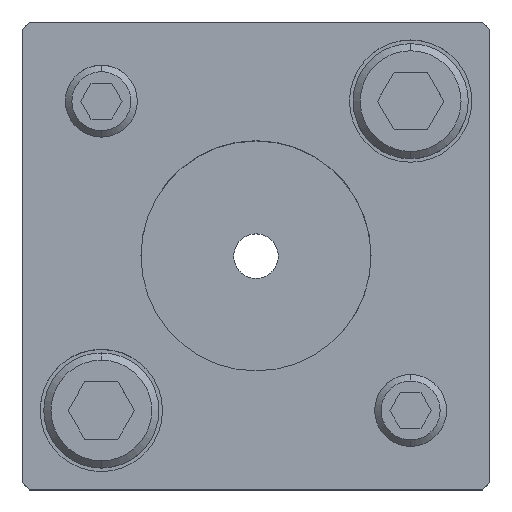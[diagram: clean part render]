
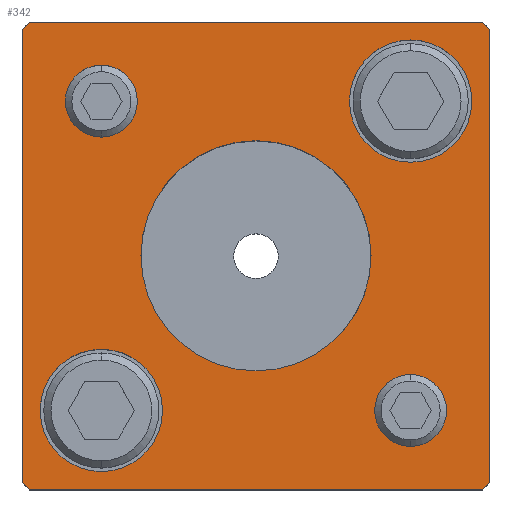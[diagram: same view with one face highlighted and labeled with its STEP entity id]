
A CAD part, top view. The second image highlights one B-rep face of the part: STEP entity #342.
In plain terms, the highlighted planar face has unit normal (0, 0, 1).
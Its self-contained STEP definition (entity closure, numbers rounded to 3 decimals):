
#167=PLANE('',#2883);
#246=FACE_BOUND('',#713,.T.);
#247=FACE_BOUND('',#714,.T.);
#248=FACE_BOUND('',#715,.T.);
#249=FACE_BOUND('',#716,.T.);
#250=FACE_BOUND('',#717,.T.);
#251=FACE_BOUND('',#718,.T.);
#342=ADVANCED_FACE('',(#246,#247,#248,#249,#250,#251),#167,.T.);
#713=EDGE_LOOP('',(#1569,#1570,#1571,#1572,#1573,#1574,#1575,#1576));
#714=EDGE_LOOP('',(#1577,#1578));
#715=EDGE_LOOP('',(#1579,#1580));
#716=EDGE_LOOP('',(#1581,#1582));
#717=EDGE_LOOP('',(#1583,#1584));
#718=EDGE_LOOP('',(#1585,#1586));
#898=LINE('',#4225,#1118);
#899=LINE('',#4228,#1119);
#900=LINE('',#4230,#1120);
#901=LINE('',#4232,#1121);
#902=LINE('',#4234,#1122);
#903=LINE('',#4236,#1123);
#904=LINE('',#4238,#1124);
#905=LINE('',#4240,#1125);
#1118=VECTOR('',#3401,1.);
#1119=VECTOR('',#3402,1.);
#1120=VECTOR('',#3403,1.);
#1121=VECTOR('',#3404,1.);
#1122=VECTOR('',#3405,1.);
#1123=VECTOR('',#3406,1.);
#1124=VECTOR('',#3407,1.);
#1125=VECTOR('',#3408,1.);
#1569=ORIENTED_EDGE('',*,*,#2390,.T.);
#1570=ORIENTED_EDGE('',*,*,#2391,.T.);
#1571=ORIENTED_EDGE('',*,*,#2392,.T.);
#1572=ORIENTED_EDGE('',*,*,#2393,.T.);
#1573=ORIENTED_EDGE('',*,*,#2394,.T.);
#1574=ORIENTED_EDGE('',*,*,#2395,.T.);
#1575=ORIENTED_EDGE('',*,*,#2396,.T.);
#1576=ORIENTED_EDGE('',*,*,#2397,.T.);
#1577=ORIENTED_EDGE('',*,*,#2398,.F.);
#1578=ORIENTED_EDGE('',*,*,#2399,.F.);
#1579=ORIENTED_EDGE('',*,*,#2400,.F.);
#1580=ORIENTED_EDGE('',*,*,#2401,.F.);
#1581=ORIENTED_EDGE('',*,*,#2376,.F.);
#1582=ORIENTED_EDGE('',*,*,#2372,.F.);
#1583=ORIENTED_EDGE('',*,*,#2370,.F.);
#1584=ORIENTED_EDGE('',*,*,#2366,.F.);
#1585=ORIENTED_EDGE('',*,*,#2402,.T.);
#1586=ORIENTED_EDGE('',*,*,#2403,.T.);
#2083=VERTEX_POINT('',#4176);
#2084=VERTEX_POINT('',#4177);
#2087=VERTEX_POINT('',#4189);
#2088=VERTEX_POINT('',#4190);
#2099=VERTEX_POINT('',#4226);
#2100=VERTEX_POINT('',#4227);
#2101=VERTEX_POINT('',#4229);
#2102=VERTEX_POINT('',#4231);
#2103=VERTEX_POINT('',#4233);
#2104=VERTEX_POINT('',#4235);
#2105=VERTEX_POINT('',#4237);
#2106=VERTEX_POINT('',#4239);
#2107=VERTEX_POINT('',#4242);
#2108=VERTEX_POINT('',#4243);
#2109=VERTEX_POINT('',#4246);
#2110=VERTEX_POINT('',#4247);
#2111=VERTEX_POINT('',#4250);
#2112=VERTEX_POINT('',#4251);
#2366=EDGE_CURVE('',#2083,#2084,#2655,.T.);
#2370=EDGE_CURVE('',#2084,#2083,#2657,.T.);
#2372=EDGE_CURVE('',#2087,#2088,#2659,.T.);
#2376=EDGE_CURVE('',#2088,#2087,#2661,.T.);
#2390=EDGE_CURVE('',#2099,#2100,#898,.T.);
#2391=EDGE_CURVE('',#2100,#2101,#899,.T.);
#2392=EDGE_CURVE('',#2101,#2102,#900,.T.);
#2393=EDGE_CURVE('',#2102,#2103,#901,.T.);
#2394=EDGE_CURVE('',#2103,#2104,#902,.T.);
#2395=EDGE_CURVE('',#2104,#2105,#903,.T.);
#2396=EDGE_CURVE('',#2105,#2106,#904,.T.);
#2397=EDGE_CURVE('',#2106,#2099,#905,.T.);
#2398=EDGE_CURVE('',#2107,#2108,#2671,.T.);
#2399=EDGE_CURVE('',#2108,#2107,#2672,.T.);
#2400=EDGE_CURVE('',#2109,#2110,#2673,.T.);
#2401=EDGE_CURVE('',#2110,#2109,#2674,.T.);
#2402=EDGE_CURVE('',#2111,#2112,#2675,.T.);
#2403=EDGE_CURVE('',#2112,#2111,#2676,.T.);
#2655=CIRCLE('',#2851,5.);
#2657=CIRCLE('',#2854,5.);
#2659=CIRCLE('',#2858,5.);
#2661=CIRCLE('',#2861,5.);
#2671=CIRCLE('',#2877,8.5);
#2672=CIRCLE('',#2878,8.5);
#2673=CIRCLE('',#2879,8.5);
#2674=CIRCLE('',#2880,8.5);
#2675=CIRCLE('',#2881,16.);
#2676=CIRCLE('',#2882,16.);
#2851=AXIS2_PLACEMENT_3D('',#4175,#3341,#3342);
#2854=AXIS2_PLACEMENT_3D('',#4184,#3349,#3350);
#2858=AXIS2_PLACEMENT_3D('',#4188,#3357,#3358);
#2861=AXIS2_PLACEMENT_3D('',#4197,#3365,#3366);
#2877=AXIS2_PLACEMENT_3D('',#4241,#3409,#3410);
#2878=AXIS2_PLACEMENT_3D('',#4244,#3411,#3412);
#2879=AXIS2_PLACEMENT_3D('',#4245,#3413,#3414);
#2880=AXIS2_PLACEMENT_3D('',#4248,#3415,#3416);
#2881=AXIS2_PLACEMENT_3D('',#4249,#3417,#3418);
#2882=AXIS2_PLACEMENT_3D('',#4252,#3419,#3420);
#2883=AXIS2_PLACEMENT_3D('',#4253,#3421,#3422);
#3341=DIRECTION('',(0.,0.,1.));
#3342=DIRECTION('',(-1.,0.,0.));
#3349=DIRECTION('',(0.,0.,1.));
#3350=DIRECTION('',(1.,0.,0.));
#3357=DIRECTION('',(0.,0.,1.));
#3358=DIRECTION('',(-1.,0.,0.));
#3365=DIRECTION('',(0.,0.,1.));
#3366=DIRECTION('',(1.,0.,0.));
#3401=DIRECTION('',(0.707,0.707,0.));
#3402=DIRECTION('',(0.,1.,0.));
#3403=DIRECTION('',(-0.707,0.707,0.));
#3404=DIRECTION('',(-1.,0.,0.));
#3405=DIRECTION('',(-0.707,-0.707,0.));
#3406=DIRECTION('',(0.,-1.,0.));
#3407=DIRECTION('',(0.707,-0.707,0.));
#3408=DIRECTION('',(1.,0.,0.));
#3409=DIRECTION('',(0.,0.,1.));
#3410=DIRECTION('',(1.,0.,0.));
#3411=DIRECTION('',(0.,0.,1.));
#3412=DIRECTION('',(-1.,0.,0.));
#3413=DIRECTION('',(0.,0.,1.));
#3414=DIRECTION('',(1.,0.,0.));
#3415=DIRECTION('',(0.,0.,1.));
#3416=DIRECTION('',(-1.,0.,0.));
#3417=DIRECTION('',(0.,0.,-1.));
#3418=DIRECTION('',(-1.,0.,0.));
#3419=DIRECTION('',(0.,0.,-1.));
#3420=DIRECTION('',(1.,0.,0.));
#3421=DIRECTION('',(0.,0.,1.));
#3422=DIRECTION('',(-1.,0.,0.));
#4175=CARTESIAN_POINT('',(21.5,-21.5,35.));
#4176=CARTESIAN_POINT('',(21.5,-26.5,35.));
#4177=CARTESIAN_POINT('',(21.5,-16.5,35.));
#4184=CARTESIAN_POINT('',(21.5,-21.5,35.));
#4188=CARTESIAN_POINT('',(-21.5,21.5,35.));
#4189=CARTESIAN_POINT('',(-21.5,16.5,35.));
#4190=CARTESIAN_POINT('',(-21.5,26.5,35.));
#4197=CARTESIAN_POINT('',(-21.5,21.5,35.));
#4225=CARTESIAN_POINT('',(31.5,-32.5,35.));
#4226=CARTESIAN_POINT('',(31.5,-32.5,35.));
#4227=CARTESIAN_POINT('',(32.5,-31.5,35.));
#4228=CARTESIAN_POINT('',(32.5,31.5,35.));
#4229=CARTESIAN_POINT('',(32.5,31.5,35.));
#4230=CARTESIAN_POINT('',(32.5,31.5,35.));
#4231=CARTESIAN_POINT('',(31.5,32.5,35.));
#4232=CARTESIAN_POINT('',(-31.5,32.5,35.));
#4233=CARTESIAN_POINT('',(-31.5,32.5,35.));
#4234=CARTESIAN_POINT('',(-31.5,32.5,35.));
#4235=CARTESIAN_POINT('',(-32.5,31.5,35.));
#4236=CARTESIAN_POINT('',(-32.5,31.5,35.));
#4237=CARTESIAN_POINT('',(-32.5,-31.5,35.));
#4238=CARTESIAN_POINT('',(-32.5,-31.5,35.));
#4239=CARTESIAN_POINT('',(-31.5,-32.5,35.));
#4240=CARTESIAN_POINT('',(-31.5,-32.5,35.));
#4241=CARTESIAN_POINT('',(21.5,21.5,35.));
#4242=CARTESIAN_POINT('',(21.5,30.,35.));
#4243=CARTESIAN_POINT('',(21.5,13.,35.));
#4244=CARTESIAN_POINT('',(21.5,21.5,35.));
#4245=CARTESIAN_POINT('',(-21.5,-21.5,35.));
#4246=CARTESIAN_POINT('',(-21.5,-13.,35.));
#4247=CARTESIAN_POINT('',(-21.5,-30.,35.));
#4248=CARTESIAN_POINT('',(-21.5,-21.5,35.));
#4249=CARTESIAN_POINT('',(0.,0.,35.));
#4250=CARTESIAN_POINT('',(0.,16.,35.));
#4251=CARTESIAN_POINT('',(0.,-16.,35.));
#4252=CARTESIAN_POINT('',(0.,0.,35.));
#4253=CARTESIAN_POINT('',(31.5,-32.5,35.));
